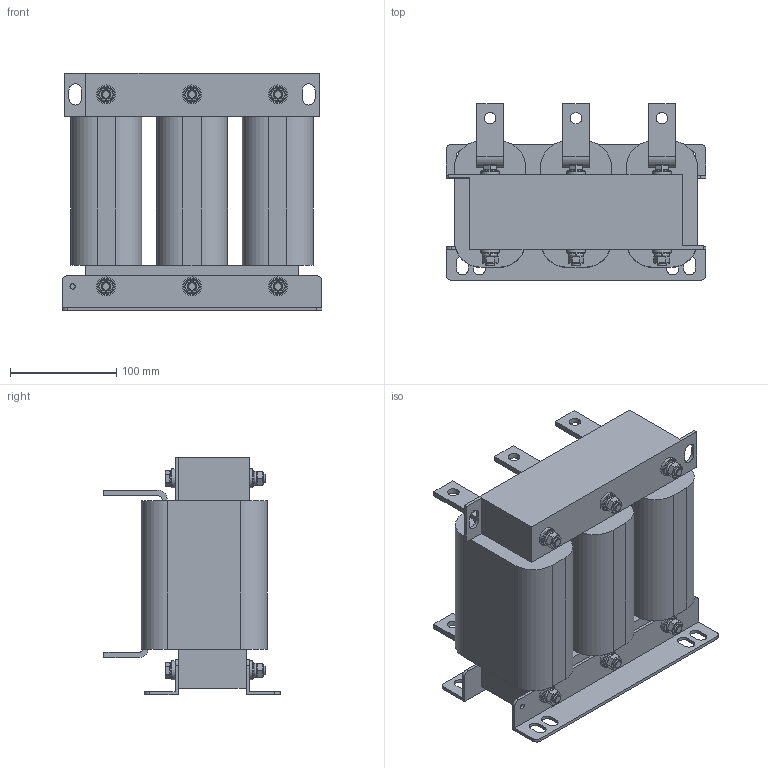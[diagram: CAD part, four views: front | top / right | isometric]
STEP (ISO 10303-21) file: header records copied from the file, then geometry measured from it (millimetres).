
FILE_DESCRIPTION(('STEP AP203'), '1');
FILE_NAME('栖闉罻 _ IMF-90_176-4', '', ('UNSPECIFIED'), ('UNSPECIFIED'), 'ASCON STEP Converter 1.6', 'ASCON Math Kernel', '');
FILE_SCHEMA(('CONFIG_CONTROL_DESIGN'));
Length unit declared in the file: millimetre
Products named in the file (12): IMF-90_176-4
Assembly tree (55 placements, depth 2):
  IMF-90_176-4
    IMF-90_176-4
    IMF-90_176-4  x2
    IMF-90_176-4  x3
    IMF-90_176-4  x3
    IMF-90_176-4  x3
    IMF-90_176-4
    IMF-90_176-4  x12
    IMF-90_176-4  x12
    IMF-90_176-4  x6
    IMF-90_176-4  x6
    IMF-90_176-4  x6
Bounding box: 245 x 166 x 224 mm (x, y, z)
Volume: 4321830.5 mm3; surface area: 407411 mm2
Topology: 55 solids, 55 shells, 586 faces, 1248 edges, 778 vertices
Faces by surface type: plane 424, cylinder 132, cone 18, torus 12
Full cylindrical faces by diameter (mm): 5 x2, 8 x48, 11 x6, 15.7 x12, 17.8 x12
Entity records: 6362 total; most frequent: CARTESIAN_POINT 1114, DIRECTION 832, ORIENTED_EDGE 666, EDGE_CURVE 333, AXIS2_PLACEMENT_3D 297, LINE 238, VECTOR 238, VERTEX_POINT 227
